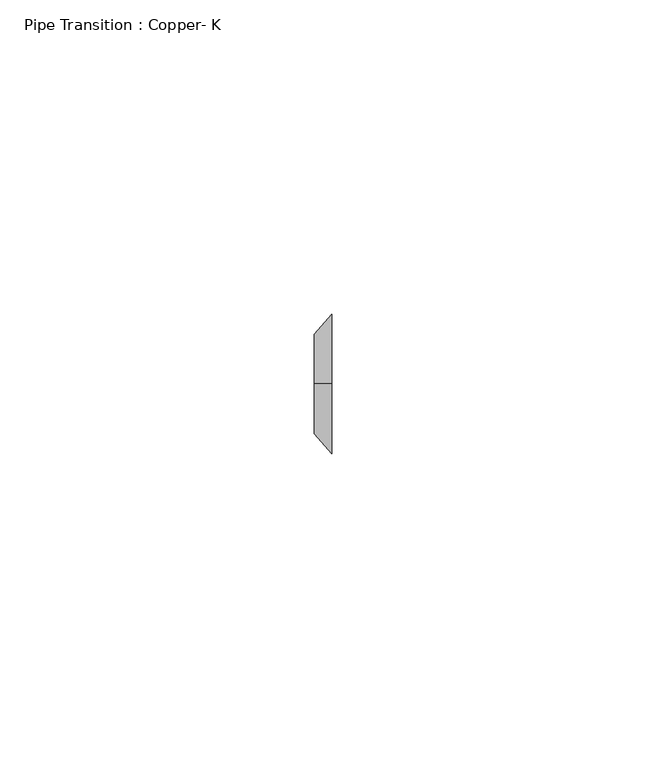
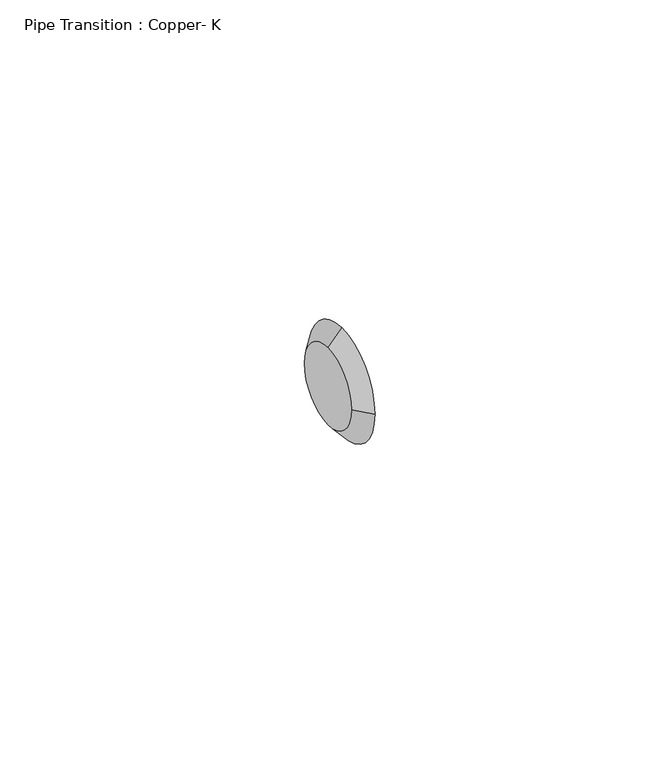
"""IFC4 building model written with IfcOpenShell, lengths in millimetres: pipe fitting geometry, Pipe Transition : Copper- K."""

from ifc_helpers import new_model, si_unit, frame, origin, place, context, project, spatial, polyline, circle_curve, source, transform, mapped, element, save
from ifc_brep_helpers import plane_surface, revolved_surface, advanced_brep


def pipe_transition_copper_k_46d96269(model_context):
    return source(origin(), model_context, "Body", "AdvancedBrep", [
        advanced_brep(
        [(2.778125, 0.0, 11.1125), (2.778125, -11.1125, 0.0), (2.778125, 0.0, -11.1125), (2.778125, 11.1125, 0.0), (0.0, 0.0, 7.9375), (0.0, 7.9375, 0.0), (0.0, 0.0, -7.9375), (0.0, -7.9375, 0.0)],
        [
            (0, 1, circle_curve(frame((2.778125, 0.0, 0.0), z_axis=(1.0, 0.0, 0.0), x_axis=(0.0, 0.0, 1.0)), 11.1125)),
            (1, 2, circle_curve(frame((2.778125, 0.0, 0.0), z_axis=(1.0, 0.0, 0.0), x_axis=(0.0, -1.0, 0.0)), 11.1125)),
            (2, 3, circle_curve(frame((2.778125, 0.0, 0.0), z_axis=(1.0, 0.0, 0.0), x_axis=(0.0, 0.0, -1.0)), 11.1125)),
            (3, 0, circle_curve(frame((2.778125, 0.0, 0.0), z_axis=(1.0, 0.0, 0.0), x_axis=(0.0, 1.0, 0.0)), 11.1125)),
            (4, 5, circle_curve(frame((0.0, 0.0, 0.0), z_axis=(-1.0, 0.0, 0.0), x_axis=(0.0, 1.0, 0.0)), 7.9375)),
            (5, 6, circle_curve(frame((0.0, 0.0, 0.0), z_axis=(-1.0, 0.0, 0.0), x_axis=(0.0, 0.0, -1.0)), 7.9375)),
            (6, 7, circle_curve(frame((0.0, 0.0, 0.0), z_axis=(-1.0, 0.0, 0.0), x_axis=(0.0, -1.0, 0.0)), 7.9375)),
            (7, 4, circle_curve(frame((0.0, 0.0, 0.0), z_axis=(-1.0, 0.0, 0.0), x_axis=(0.0, 0.0, 1.0)), 7.9375)),
            (7, 1),
            (0, 4),
            (6, 2),
            (5, 3),
        ],
        [
            plane_surface(frame((2.778125, 0.0, 0.0), z_axis=(1.0, 0.0, 0.0), x_axis=(0.0, -1.0, 0.0))),
            plane_surface(frame((0.0, 0.0, 0.0), z_axis=(-1.0, 0.0, 0.0), x_axis=(0.0, -1.0, 0.0))),
            revolved_surface(polyline([(0.0, -7.937500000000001, 0.0), (2.7781249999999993, -11.1125, 0.0)]), (-6.9453125, 0.0, 0.0), (1.0, 0.0, 0.0)),
            revolved_surface(polyline([(0.0, 0.0, -7.937500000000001), (2.7781249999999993, 0.0, -11.1125)]), (-6.9453125, 0.0, 0.0), (1.0, 0.0, 0.0)),
            revolved_surface(polyline([(0.0, 7.937500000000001, 0.0), (2.7781249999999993, 11.1125, 0.0)]), (-6.9453125, 0.0, 0.0), (1.0, 0.0, 0.0)),
            revolved_surface(polyline([(0.0, 0.0, 7.937500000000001), (2.7781249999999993, 0.0, 11.1125)]), (-6.9453125, 0.0, 0.0), (1.0, 0.0, 0.0)),
        ],
        [
            (0, [[1, 2, 3, 4]]),
            (1, [[5, 6, 7, 8]]),
            (2, [[-8, 9, -1, 10]]),
            (3, [[-7, 11, -2, -9]]),
            (4, [[-6, 12, -3, -11]]),
            (5, [[-5, -10, -4, -12]]),
        ],
    ),
        advanced_brep(
        [(2.778125, 0.0, 11.1125), (2.778125, -11.1125, 0.0), (2.778125, 0.0, -11.1125), (2.778125, 11.1125, 0.0), (0.0, 0.0, 7.9375), (0.0, 7.9375, 0.0), (0.0, 0.0, -7.9375), (0.0, -7.9375, 0.0)],
        [
            (0, 1, circle_curve(frame((2.778125, 0.0, 0.0), z_axis=(1.0, 0.0, -3.0035229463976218e-12), x_axis=(3.0035664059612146e-12, 0.0, 1.0)), 11.1125)),
            (1, 2, circle_curve(frame((2.778125, 0.0, 0.0), z_axis=(1.0, 0.0, -2.8817156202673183e-12), x_axis=(0.0, -1.0, 0.0)), 11.1125)),
            (2, 3, circle_curve(frame((2.778125, 0.0, 0.0), z_axis=(1.0, 0.0, -4.6852845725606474e-12), x_axis=(-4.685327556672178e-12, 0.0, -1.0)), 11.1125)),
            (3, 0, circle_curve(frame((2.778125, 0.0, 0.0), z_axis=(1.0, 0.0, 0.0), x_axis=(0.0, 1.0, 0.0)), 11.1125)),
            (4, 5, circle_curve(frame((0.0, 0.0, 0.0), z_axis=(-1.0, 0.0, 0.0), x_axis=(0.0, 1.0, 0.0)), 7.9375)),
            (5, 6, circle_curve(frame((0.0, 0.0, 0.0), z_axis=(-1.0, 0.0, 4.6852845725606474e-12), x_axis=(-4.685327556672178e-12, 0.0, -1.0)), 7.9375)),
            (6, 7, circle_curve(frame((0.0, 0.0, 0.0), z_axis=(-1.0, 0.0, 2.8817156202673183e-12), x_axis=(0.0, -1.0, 0.0)), 7.9375)),
            (7, 4, circle_curve(frame((0.0, 0.0, 0.0), z_axis=(-1.0, 0.0, 3.0035229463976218e-12), x_axis=(3.0035664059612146e-12, 0.0, 1.0)), 7.9375)),
            (7, 1),
            (0, 4),
            (6, 2),
            (5, 3),
        ],
        [
            plane_surface(frame((2.778125, 0.0, 0.0), z_axis=(1.0, 0.0, 0.0), x_axis=(0.0, -1.0, 0.0))),
            plane_surface(frame((0.0, 0.0, 0.0), z_axis=(-1.0, 0.0, 0.0), x_axis=(0.0, -1.0, 0.0))),
            revolved_surface(polyline([(-2.384048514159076e-11, -7.937499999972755, 0.0), (2.7781249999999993, -11.1125, 0.0)]), (-6.9453125, 0.0, 0.0), (1.0, 0.0, -3.0035229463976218e-12)),
            revolved_surface(polyline([(-2.2873258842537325e-11, 0.0, -7.93749999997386), (2.7781249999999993, 0.0, -11.1125)]), (-6.9453125, 0.0, 0.0), (1.0, 0.0, -2.8817156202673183e-12)),
            revolved_surface(polyline([(0.0, 7.937500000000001, 0.0), (2.7781250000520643, 11.112500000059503, 0.0)]), (-6.9453125, 0.0, 0.0), (1.0, 0.0, -4.6852845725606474e-12)),
            revolved_surface(polyline([(0.0, 0.0, 7.937500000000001), (2.7781249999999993, 0.0, 11.1125)]), (-6.9453125, 0.0, 0.0), (1.0, 0.0, 0.0)),
        ],
        [
            (0, [[1, 2, 3, 4]]),
            (1, [[5, 6, 7, 8]]),
            (2, [[-8, 9, -1, 10]]),
            (3, [[-7, 11, -2, -9]]),
            (4, [[-6, 12, -3, -11]]),
            (5, [[-5, -10, -4, -12]]),
        ],
    ),
    ])


if __name__ == "__main__":
    model = new_model("IFC4")
    model_context = context("Model", 3, world=origin())
    ifc_project = project(units=[si_unit("LENGTHUNIT", "METRE", prefix="MILLI")], contexts=[model_context])
    site = spatial("IfcSite", under=ifc_project)
    building = spatial("IfcBuilding", under=site)
    placement = place(None, origin())
    pipe_transition_copper_k_shape = pipe_transition_copper_k_46d96269(model_context)
    element("IfcPipeFitting", 1, ObjectType="Pipe Transition : Copper- K", at=placement, inside=building, context=model_context, shape_type="MappedRepresentation", body=[
        mapped(pipe_transition_copper_k_shape, transform((0.0, 0.0, 0.0), x_axis=(1.0, 0.0, 0.0), y_axis=(0.0, 1.0, 0.0), z_axis=(0.0, 0.0, 1.0))),
    ])
    save(model, "model.ifc")
